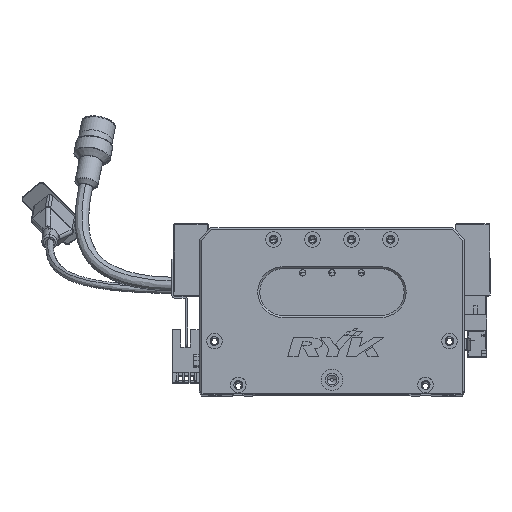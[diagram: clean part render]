
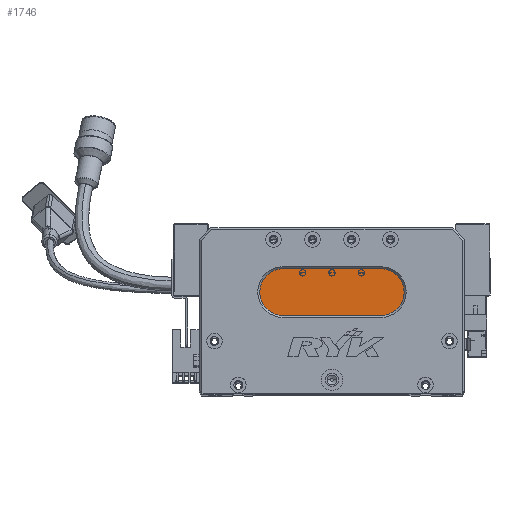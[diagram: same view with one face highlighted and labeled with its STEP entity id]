
A CAD part, top view. The second image highlights one B-rep face of the part: STEP entity #1746.
In plain terms, the highlighted planar face has unit normal (0, 0, 1) as drawn and (0, 0, -1) by its records, which use the part's own axes.
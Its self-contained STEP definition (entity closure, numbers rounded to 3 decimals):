
#696 = VERTEX_POINT ( 'NONE', #9078 ) ;
#1746 = ADVANCED_FACE ( 'NONE', ( #20154 ), #14604, .T. ) ;
#2575 = CIRCLE ( 'NONE', #69918, 12. ) ;
#3794 = EDGE_CURVE ( 'NONE', #33854, #53370, #6365, .T. ) ;
#4038 = DIRECTION ( 'NONE',  ( -1., 0., 0. ) ) ;
#4187 = EDGE_LOOP ( 'NONE', ( #4591, #51170, #53955, #8367, #29446 ) ) ;
#4591 = ORIENTED_EDGE ( 'NONE', *, *, #42524, .T. ) ;
#6365 = LINE ( 'NONE', #32205, #9865 ) ;
#7084 = EDGE_CURVE ( 'NONE', #38184, #66185, #12062, .T. ) ;
#8367 = ORIENTED_EDGE ( 'NONE', *, *, #7084, .T. ) ;
#9078 = CARTESIAN_POINT ( 'NONE',  ( 93., 64., 13. ) ) ;
#9378 = DIRECTION ( 'NONE',  ( -1., 0., 0. ) ) ;
#9865 = VECTOR ( 'NONE', #9378, 1000. ) ;
#12062 = CIRCLE ( 'NONE', #42287, 12. ) ;
#13316 = CARTESIAN_POINT ( 'NONE',  ( 43., 40., 13. ) ) ;
#14604 = PLANE ( 'NONE',  #64064 ) ;
#17500 = DIRECTION ( 'NONE',  ( 1., 0., 0. ) ) ;
#20154 = FACE_OUTER_BOUND ( 'NONE', #4187, .T. ) ;
#21364 = CARTESIAN_POINT ( 'NONE',  ( 43., 52., 13. ) ) ;
#21794 = CARTESIAN_POINT ( 'NONE',  ( 43., 64., 13. ) ) ;
#25202 = CARTESIAN_POINT ( 'NONE',  ( 93., 40., 13. ) ) ;
#25639 = DIRECTION ( 'NONE',  ( -1., 0., 0. ) ) ;
#26583 = CARTESIAN_POINT ( 'NONE',  ( 93., 52., 13. ) ) ;
#26743 = VECTOR ( 'NONE', #17500, 1000. ) ;
#29446 = ORIENTED_EDGE ( 'NONE', *, *, #69573, .T. ) ;
#31406 = AXIS2_PLACEMENT_3D ( 'NONE', #58162, #41514, #69420 ) ;
#32205 = CARTESIAN_POINT ( 'NONE',  ( 93., 40., 13. ) ) ;
#32244 = DIRECTION ( 'NONE',  ( 0., 0., -1. ) ) ;
#33854 = VERTEX_POINT ( 'NONE', #25202 ) ;
#34955 = CIRCLE ( 'NONE', #31406, 12. ) ;
#38184 = VERTEX_POINT ( 'NONE', #46403 ) ;
#39552 = CARTESIAN_POINT ( 'NONE',  ( 93., 52., 13. ) ) ;
#41514 = DIRECTION ( 'NONE',  ( 0., 0., -1. ) ) ;
#41720 = LINE ( 'NONE', #45041, #26743 ) ;
#42287 = AXIS2_PLACEMENT_3D ( 'NONE', #21364, #71881, #4038 ) ;
#42524 = EDGE_CURVE ( 'NONE', #696, #33854, #2575, .T. ) ;
#43163 = EDGE_CURVE ( 'NONE', #53370, #38184, #34955, .T. ) ;
#45041 = CARTESIAN_POINT ( 'NONE',  ( 93., 64., 13. ) ) ;
#46403 = CARTESIAN_POINT ( 'NONE',  ( 31., 52., 13. ) ) ;
#50837 = DIRECTION ( 'NONE',  ( 0., 0., -1. ) ) ;
#51081 = DIRECTION ( 'NONE',  ( -1., 0., 0. ) ) ;
#51170 = ORIENTED_EDGE ( 'NONE', *, *, #3794, .T. ) ;
#53370 = VERTEX_POINT ( 'NONE', #13316 ) ;
#53955 = ORIENTED_EDGE ( 'NONE', *, *, #43163, .T. ) ;
#58162 = CARTESIAN_POINT ( 'NONE',  ( 43., 52., 13. ) ) ;
#64064 = AXIS2_PLACEMENT_3D ( 'NONE', #26583, #32244, #25639 ) ;
#66185 = VERTEX_POINT ( 'NONE', #21794 ) ;
#69420 = DIRECTION ( 'NONE',  ( -1., 0., 0. ) ) ;
#69573 = EDGE_CURVE ( 'NONE', #66185, #696, #41720, .T. ) ;
#69918 = AXIS2_PLACEMENT_3D ( 'NONE', #39552, #50837, #51081 ) ;
#71881 = DIRECTION ( 'NONE',  ( 0., 0., -1. ) ) ;
